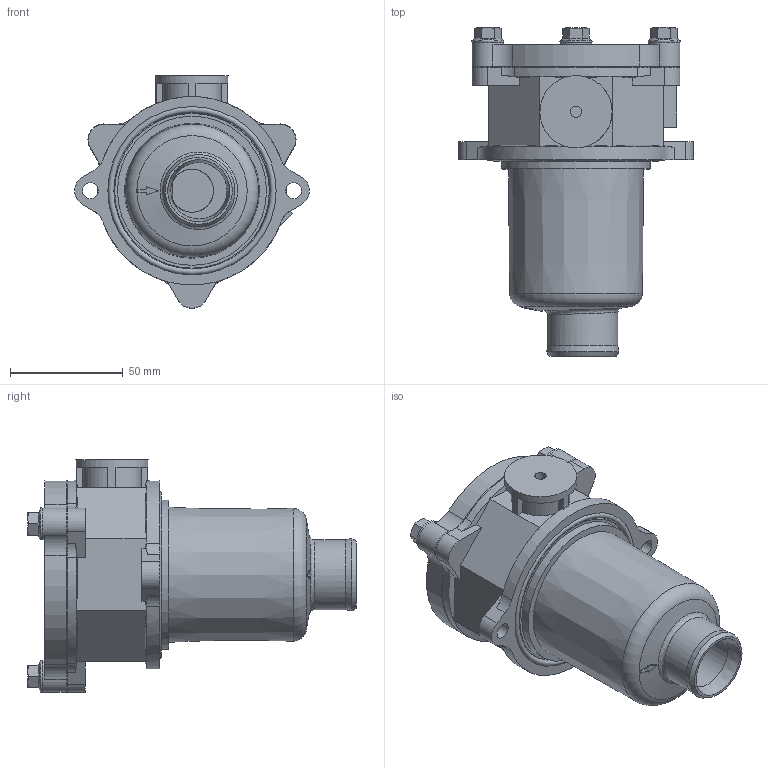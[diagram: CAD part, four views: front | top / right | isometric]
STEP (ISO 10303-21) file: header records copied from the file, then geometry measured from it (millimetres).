
FILE_DESCRIPTION((''),'2;1');
FILE_NAME('V:\Disegni-3D-Cliente\Filtri\Filtri sul Ritorno\MPF\MPF030\MPF030.stp','2014-03-10T10:16:29',('cad10'),(''),'Autodesk Inventor 2013','Autodesk Inventor 2013','');
FILE_SCHEMA(('CONFIG_CONTROL_DESIGN'));
Length unit declared in the file: millimetre
Products named in the file (4): MPF030; Camera MPF030; Coperchio MPF030; Contenitore MPF030
Assembly tree (3 placements, depth 2):
  MPF030
    Camera MPF030
    Coperchio MPF030
    Contenitore MPF030
Bounding box: 104 x 145.6 x 103.1 mm (x, y, z)
Volume: 460660.5 mm3; surface area: 67402.1 mm2
Topology: 7 solids, 7 shells, 239 faces, 594 edges, 380 vertices
Faces by surface type: plane 110, cylinder 77, cone 45, torus 5, sphere 1, bspline 1
Full cylindrical faces by diameter (mm): 5 x2, 6.5 x1, 7 x2, 14 x3, 19 x1, 25 x1, 31 x1, 32 x1, 66 x1, 68.5 x1, 74.5 x1
Entity records: 7322 total; most frequent: CARTESIAN_POINT 1792, ORIENTED_EDGE 1116, DIRECTION 1111, EDGE_CURVE 558, AXIS2_PLACEMENT_3D 437, VERTEX_POINT 374, EDGE_LOOP 284, FACE_OUTER_BOUND 239
